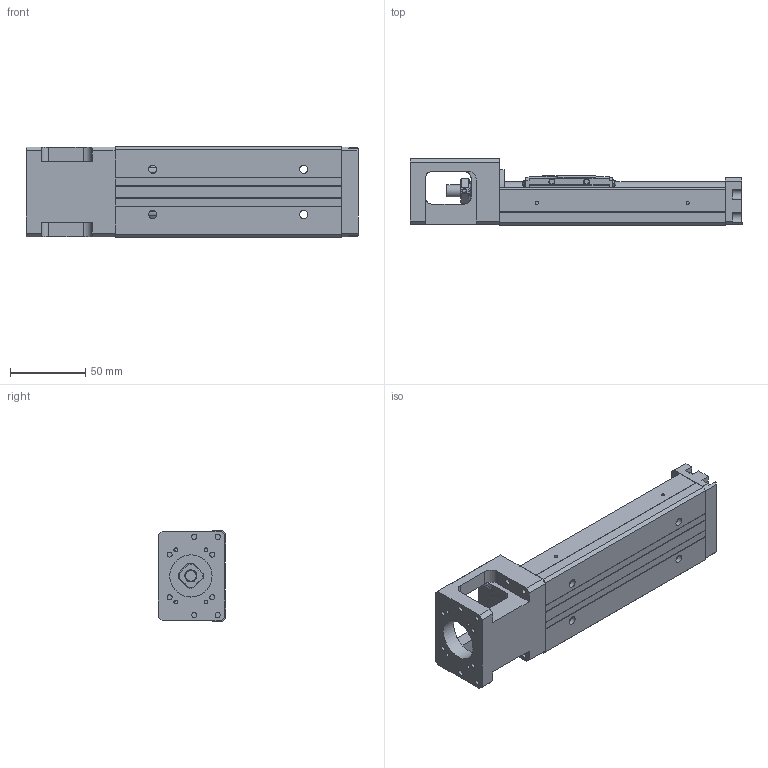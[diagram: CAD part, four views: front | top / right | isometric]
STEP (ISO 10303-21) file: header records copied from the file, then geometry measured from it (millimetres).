
FILE_DESCRIPTION(/* description */ (''),/* implementation_level */ '2;1');
FILE_NAME(/* name */ 'KP33S-150C02-D.stp',/* time_stamp */ '2020-07-01T11:50:40+08:00',/* author */ (''),/* organization */ (''),/* preprocessor_version */ 'ST-DEVELOPER v14',/* originating_system */ 'SIEMENS PLM Software NX 8.0',/* authorisation */ '');
FILE_SCHEMA (('AUTOMOTIVE_DESIGN { 1 0 10303 214 3 1 1 1 }'));
Length unit declared in the file: millimetre
Products named in the file (1): model1
Bounding box: 220 x 44.45 x 60 mm (x, y, z)
Volume: 288123.2 mm3; surface area: 82800.1 mm2
Topology: 5 solids, 10 shells, 568 faces, 1478 edges, 972 vertices
Faces by surface type: plane 340, cylinder 147, bspline 31, extrusion 21, cone 20, torus 7, sphere 2
Full cylindrical faces by diameter (mm): 1.6 x1, 1.65 x4, 2.15 x2, 2.42 x4, 2.45 x2, 2.5 x4, 3.2 x4, 3.3 x4, 3.4 x4, 3.5 x10, 3.969 x1, 4 x4, 4.001 x1, 4.135 x2, 5.5 x4, 6 x4, 7.6 x1, 8 x5, 9.5 x4, 10.72 x3, 11.8 x2, 12 x1, 12.8 x1, 13 x2, 14 x1, 16 x4, 21.5 x1, 28 x1
Entity records: 32033 total; most frequent: CARTESIAN_POINT 14801, DIRECTION 2638, ORIENTED_EDGE 2622, EDGE_CURVE 1311, VERTEX_POINT 914, AXIS2_PLACEMENT_3D 907, VECTOR 824, LINE 803
